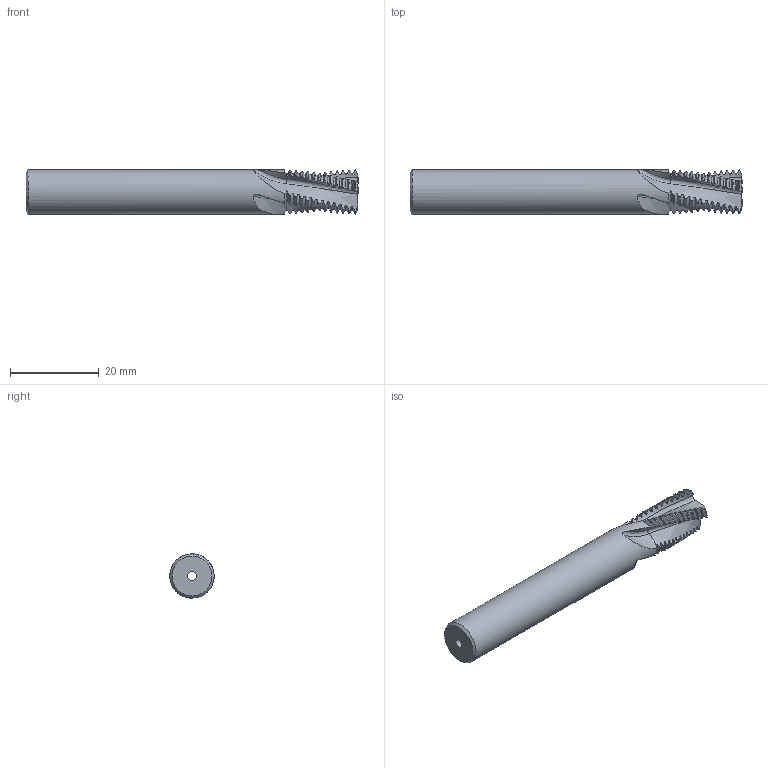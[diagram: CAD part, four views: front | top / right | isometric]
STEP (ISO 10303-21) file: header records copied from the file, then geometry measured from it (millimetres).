
FILE_DESCRIPTION(/* description */ (''),/* implementation_level */ '2;1');
FILE_NAME(/* name */ '00035536-STEP',/* time_stamp */ '2024-02-20T07:07:31+01:00',/* author */ (''),/* organization */ (''),/* preprocessor_version */ 'ST-DEVELOPER v16.5',/* originating_system */ 'HiCAD 2017 2201.0 Build 268',/* authorisation */ '');
FILE_SCHEMA (('AUTOMOTIVE_DESIGN { 1 0 10303 214 1 1 1 1 }'));
Length unit declared in the file: millimetre
Products named in the file (2): Root; ROTATIONSTEIL_0
Assembly tree (1 placements, depth 2):
  Root
    ROTATIONSTEIL_0
Bounding box: 75 x 10 x 9.99 mm (x, y, z)
Volume: 4856.3 mm3; surface area: 3095.5 mm2
Topology: 1 solids, 1 shells, 229 faces, 775 edges, 548 vertices
Faces by surface type: cone 101, torus 100, bspline 24, cylinder 2, plane 2
Full cylindrical faces by diameter (mm): 2 x1, 10 x1
Entity records: 27286 total; most frequent: CARTESIAN_POINT 14349, PRESENTATION_STYLE_ASSIGNMENT 1539, COLOUR_RGB 1539, DRAUGHTING_PRE_DEFINED_CURVE_FONT 1538, CURVE_STYLE 1538, OVER_RIDING_STYLED_ITEM 1538, ORIENTED_EDGE 1538, DIRECTION 832
